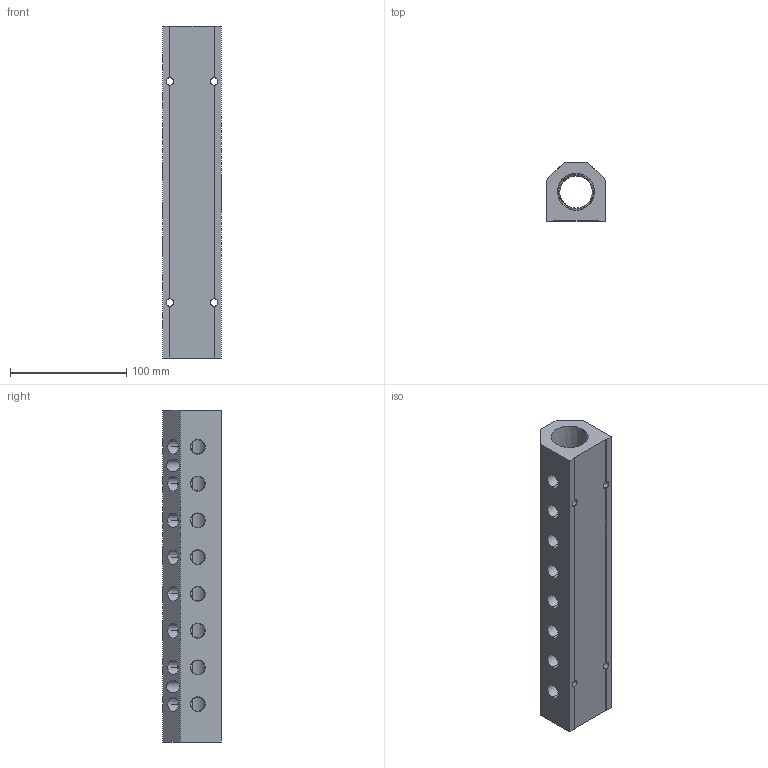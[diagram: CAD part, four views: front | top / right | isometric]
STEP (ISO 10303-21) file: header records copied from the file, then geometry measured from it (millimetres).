
FILE_DESCRIPTION (( 'STEP AP214' ), '1' );
FILE_NAME ('ALM8ABC-N4N16-286R.STEP', '2023-11-02T06:51:46', ( '' ), ( '' ), 'SwSTEP 2.0', 'SolidWorks 2020', '' );
FILE_SCHEMA (( 'AUTOMOTIVE_DESIGN' ));
Length unit declared in the file: millimetre
Products named in the file (1): ALM8ABC-N4N16-286R
Bounding box: 50.8 x 50.8 x 286 mm (x, y, z)
Volume: 438389.6 mm3; surface area: 90988.9 mm2
Topology: 1 solids, 1 shells, 368 faces, 992 edges, 656 vertices
Faces by surface type: plane 208, bspline 82, cone 56, cylinder 22
Entity records: 21699 total; most frequent: CARTESIAN_POINT 9579, ORIENTED_EDGE 1984, DIRECTION 1414, EDGE_CURVE 992, VECTOR 656, LINE 656, VERTEX_POINT 656, EDGE_LOOP 456
